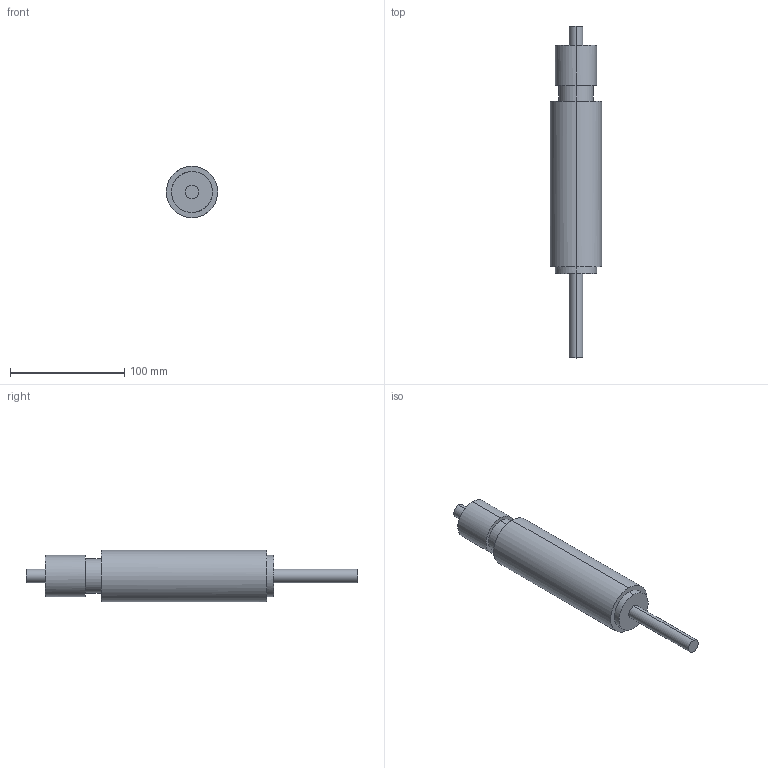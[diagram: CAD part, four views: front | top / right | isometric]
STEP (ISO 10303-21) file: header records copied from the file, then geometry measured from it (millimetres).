
FILE_DESCRIPTION(('CATIA V5 STEP Exchange'),'2;1');
FILE_NAME('C:\Users\Raffaele\Desktop\3D X SITO CF\D995\GSB_OILLESS_M3050465050\STEP-2.03\D995-2.stp','2019-07-05T08:09:24+00:00',('none'),('none'),'CATIA Version 5 Release 20 GA (IN-10)','CATIA V5 STEP AP203','none');
FILE_SCHEMA(('CONFIG_CONTROL_DESIGN'));
Length unit declared in the file: millimetre
Products named in the file (1): D995-2
Bounding box: 45 x 291 x 45 mm (x, y, z)
Volume: 292533.3 mm3; surface area: 33688.9 mm2
Topology: 1 solids, 1 shells, 19 faces, 60 edges, 48 vertices
Faces by surface type: cylinder 12, plane 7
Entity records: 872 total; most frequent: CARTESIAN_POINT 296, ORIENTED_EDGE 120, DIRECTION 86, EDGE_CURVE 60, AXIS2_PLACEMENT_3D 56, VERTEX_POINT 48, CIRCLE 36, EDGE_LOOP 24
